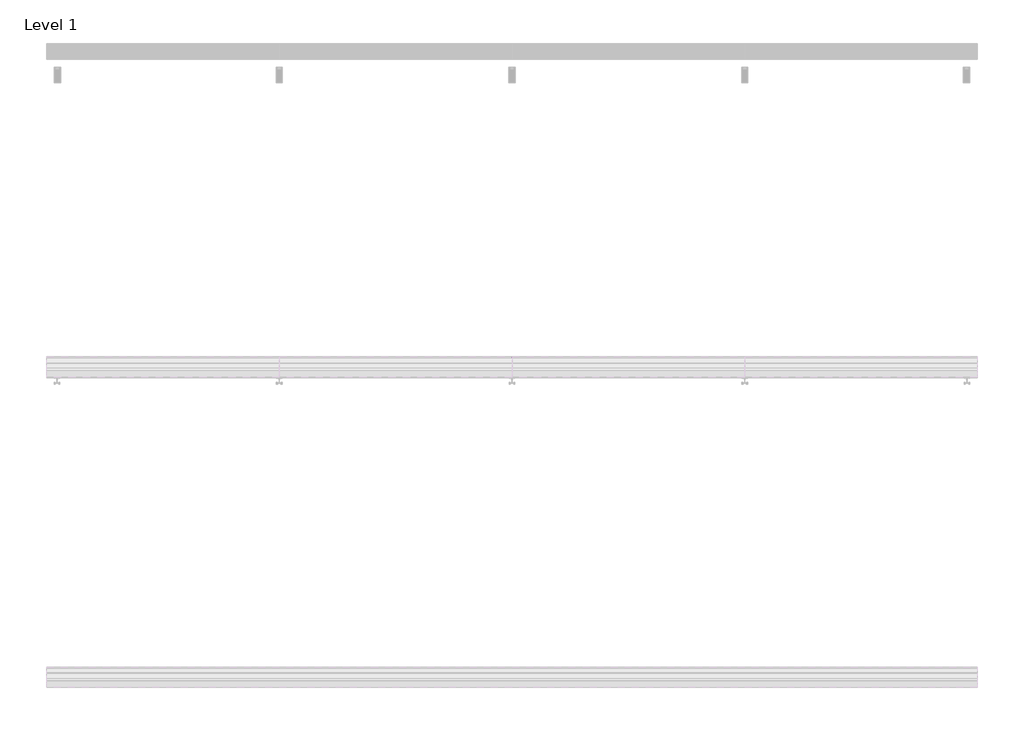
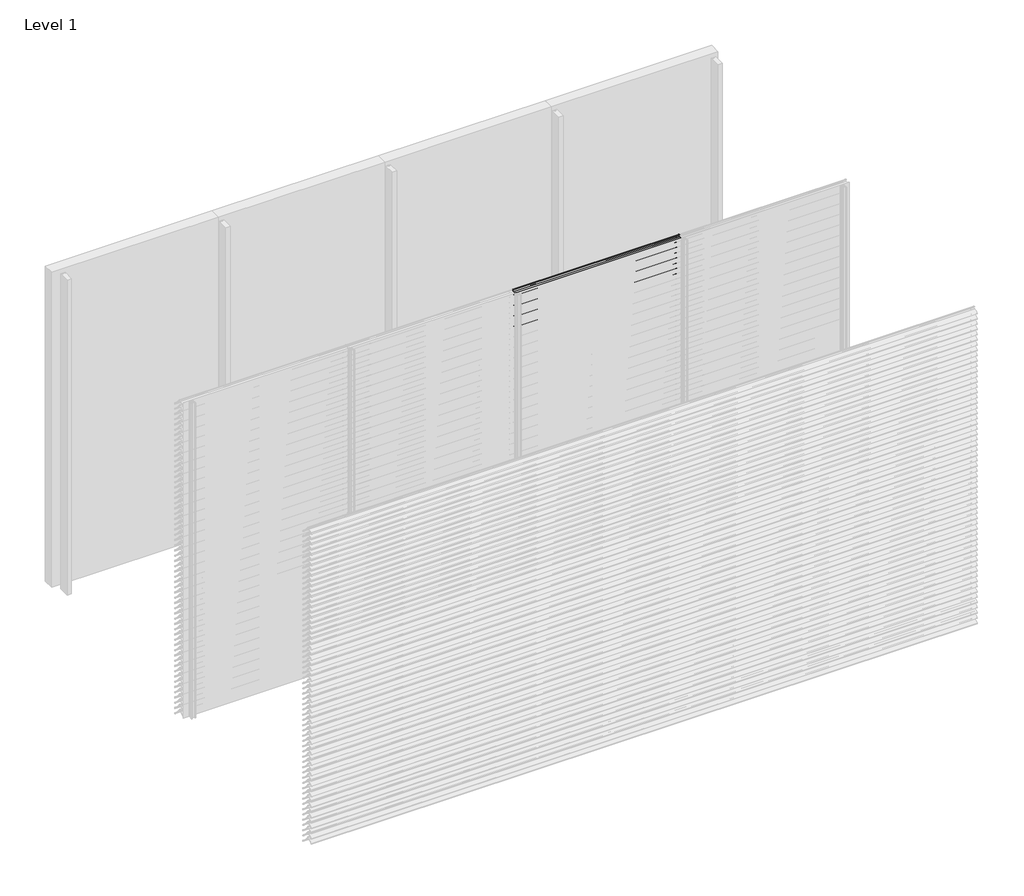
# One storey, part 47 of 173: 18 proxies.
"""IFC4 building model written with IfcOpenShell, lengths in millimetres."""

from ifc_helpers import new_model, si_unit, point, frame, frame_2d, origin, place, context, project, spatial, polyline, circle_curve, trimmed, segment, composite_curve, outline, extrude, element, save

model = new_model("IFC4")

# Units and contexts
model_context = context("Model", 3, world=origin())
ifc_project = project(units=[si_unit("LENGTHUNIT", "METRE", prefix="MILLI")], contexts=[model_context])

# Site, building, storey
site = spatial("IfcSite", under=ifc_project)
building = spatial("IfcBuilding", under=site)
storey = spatial("IfcBuildingStorey", under=building, Name="Level 1", Elevation=0.0)

# Proxies
placement = place(None, origin())
element("IfcBuildingElementProxy", 1, Name="Wall Sweeps", at=placement, inside=storey, context=model_context, shape_type="SweptSolid", body=[
    extrude(outline(composite_curve([segment(polyline([(-41998.0, 459.1474905), (-41998.0, 461.6227417)]), True, "CONTINUOUS"), segment(trimmed(circle_curve(frame_2d((-41951.2682172, 416.2200208)), 65.1557103), [point((-41998.0, 461.6227417))], [point((-41954.4014323, 481.3003524))], False, "CARTESIAN"), True, "CONTINUOUS"), segment(polyline([(-41954.4014323, 481.3003524), (-41934.8315836, 481.3003524)]), True, "CONTINUOUS"), segment(trimmed(circle_curve(frame_2d((-41732.7329489, 628.5533172)), 250.0545817), [point((-41934.8315836, 481.3003524))], [point((-41941.4452143, 490.8344583))], False, "CARTESIAN"), True, "CONTINUOUS"), segment(trimmed(circle_curve(frame_2d((-41953.2981792, 485.1737835)), 13.1352966), [point((-41941.4452143, 490.8344583))], [point((-41953.8171475, 498.298824))], True, "CARTESIAN"), True, "CONTINUOUS"), segment(polyline([(-41953.8171475, 498.298824), (-41953.8171475, 500.0)]), True, "CONTINUOUS"), segment(trimmed(circle_curve(frame_2d((-41953.2981792, 485.1737835)), 14.8352966), [point((-41953.8171475, 500.0))], [point((-41939.9637661, 491.6760487))], False, "CARTESIAN"), True, "CONTINUOUS"), segment(trimmed(circle_curve(frame_2d((-41732.7329489, 628.5533172)), 248.3545817), [point((-41939.9637661, 491.6760487))], [point((-41873.8787895, 424.2059416))], True, "CARTESIAN"), True, "CONTINUOUS"), segment(trimmed(circle_curve(frame_2d((-41883.8147537, 411.6649442)), 16.0), [point((-41873.8787895, 424.2059416))], [point((-41867.8648347, 410.4))], False, "CARTESIAN"), True, "CONTINUOUS"), segment(polyline([(-41867.8648347, 410.4), (-41869.6712069, 410.4)]), True, "CONTINUOUS"), segment(trimmed(circle_curve(frame_2d((-41883.8147537, 411.6649442)), 14.2), [point((-41869.6712069, 410.4))], [point((-41874.9518628, 422.7594998))], True, "CARTESIAN"), True, "CONTINUOUS"), segment(trimmed(circle_curve(frame_2d((-41732.7329489, 628.5533172)), 250.1545817), [point((-41874.9518628, 422.7594998))], [point((-41933.7064024, 479.6003524))], False, "CARTESIAN"), True, "CONTINUOUS"), segment(polyline([(-41933.7064024, 479.6003524), (-41954.3602632, 479.6003524)]), True, "CONTINUOUS"), segment(trimmed(circle_curve(frame_2d((-41951.2682172, 416.2200208)), 63.4557103), [point((-41954.3602632, 479.6003524))], [point((-41998.0, 459.1474905))], True, "CARTESIAN"), True, "CONTINUOUS")], self_intersect=False)), frame((1500.0, 0.0, 0.0), z_axis=(1.0, 0.0, 0.0), x_axis=(0.0, 1.0, 0.0)), (0.0, 0.0, 1.0), 1500.0),
])
element("IfcBuildingElementProxy", 2, Name="Wall Sweeps", at=placement, inside=storey, context=model_context, shape_type="SweptSolid", body=[
    extrude(outline(composite_curve([segment(polyline([(-41998.0, 409.1474905), (-41998.0, 411.6227417)]), True, "CONTINUOUS"), segment(trimmed(circle_curve(frame_2d((-41951.2682172, 366.2200208)), 65.1557103), [point((-41998.0, 411.6227417))], [point((-41954.4014323, 431.3003524))], False, "CARTESIAN"), True, "CONTINUOUS"), segment(polyline([(-41954.4014323, 431.3003524), (-41934.8315836, 431.3003524)]), True, "CONTINUOUS"), segment(trimmed(circle_curve(frame_2d((-41732.7329489, 578.5533172)), 250.0545817), [point((-41934.8315836, 431.3003524))], [point((-41941.4452143, 440.8344583))], False, "CARTESIAN"), True, "CONTINUOUS"), segment(trimmed(circle_curve(frame_2d((-41953.2981792, 435.1737835)), 13.1352966), [point((-41941.4452143, 440.8344583))], [point((-41953.8171475, 448.298824))], True, "CARTESIAN"), True, "CONTINUOUS"), segment(polyline([(-41953.8171475, 448.298824), (-41953.8171475, 450.0)]), True, "CONTINUOUS"), segment(trimmed(circle_curve(frame_2d((-41953.2981792, 435.1737835)), 14.8352966), [point((-41953.8171475, 450.0))], [point((-41939.9637661, 441.6760487))], False, "CARTESIAN"), True, "CONTINUOUS"), segment(trimmed(circle_curve(frame_2d((-41732.7329489, 578.5533172)), 248.3545817), [point((-41939.9637661, 441.6760487))], [point((-41873.8787895, 374.2059416))], True, "CARTESIAN"), True, "CONTINUOUS"), segment(trimmed(circle_curve(frame_2d((-41883.8147537, 361.6649442)), 16.0), [point((-41873.8787895, 374.2059416))], [point((-41867.8648347, 360.4))], False, "CARTESIAN"), True, "CONTINUOUS"), segment(polyline([(-41867.8648347, 360.4), (-41869.6712069, 360.4)]), True, "CONTINUOUS"), segment(trimmed(circle_curve(frame_2d((-41883.8147537, 361.6649442)), 14.2), [point((-41869.6712069, 360.4))], [point((-41874.9518628, 372.7594998))], True, "CARTESIAN"), True, "CONTINUOUS"), segment(trimmed(circle_curve(frame_2d((-41732.7329489, 578.5533172)), 250.1545817), [point((-41874.9518628, 372.7594998))], [point((-41933.7064024, 429.6003524))], False, "CARTESIAN"), True, "CONTINUOUS"), segment(polyline([(-41933.7064024, 429.6003524), (-41954.3602632, 429.6003524)]), True, "CONTINUOUS"), segment(trimmed(circle_curve(frame_2d((-41951.2682172, 366.2200208)), 63.4557103), [point((-41954.3602632, 429.6003524))], [point((-41998.0, 409.1474905))], True, "CARTESIAN"), True, "CONTINUOUS")], self_intersect=False)), frame((1500.0, 0.0, 0.0), z_axis=(1.0, 0.0, 0.0), x_axis=(0.0, 1.0, 0.0)), (0.0, 0.0, 1.0), 1500.0),
])
element("IfcBuildingElementProxy", 3, Name="Wall Sweeps", at=placement, inside=storey, context=model_context, shape_type="SweptSolid", body=[
    extrude(outline(composite_curve([segment(polyline([(-41998.0, 359.1474905), (-41998.0, 361.6227417)]), True, "CONTINUOUS"), segment(trimmed(circle_curve(frame_2d((-41951.2682172, 316.2200208)), 65.1557103), [point((-41998.0, 361.6227417))], [point((-41954.4014323, 381.3003524))], False, "CARTESIAN"), True, "CONTINUOUS"), segment(polyline([(-41954.4014323, 381.3003524), (-41934.8315836, 381.3003524)]), True, "CONTINUOUS"), segment(trimmed(circle_curve(frame_2d((-41732.7329489, 528.5533172)), 250.0545817), [point((-41934.8315836, 381.3003524))], [point((-41941.4452143, 390.8344583))], False, "CARTESIAN"), True, "CONTINUOUS"), segment(trimmed(circle_curve(frame_2d((-41953.2981792, 385.1737835)), 13.1352966), [point((-41941.4452143, 390.8344583))], [point((-41953.8171475, 398.298824))], True, "CARTESIAN"), True, "CONTINUOUS"), segment(polyline([(-41953.8171475, 398.298824), (-41953.8171475, 400.0)]), True, "CONTINUOUS"), segment(trimmed(circle_curve(frame_2d((-41953.2981792, 385.1737835)), 14.8352966), [point((-41953.8171475, 400.0))], [point((-41939.9637661, 391.6760487))], False, "CARTESIAN"), True, "CONTINUOUS"), segment(trimmed(circle_curve(frame_2d((-41732.7329489, 528.5533172)), 248.3545817), [point((-41939.9637661, 391.6760487))], [point((-41873.8787895, 324.2059416))], True, "CARTESIAN"), True, "CONTINUOUS"), segment(trimmed(circle_curve(frame_2d((-41883.8147537, 311.6649442)), 16.0), [point((-41873.8787895, 324.2059416))], [point((-41867.8648347, 310.4))], False, "CARTESIAN"), True, "CONTINUOUS"), segment(polyline([(-41867.8648347, 310.4), (-41869.6712069, 310.4)]), True, "CONTINUOUS"), segment(trimmed(circle_curve(frame_2d((-41883.8147537, 311.6649442)), 14.2), [point((-41869.6712069, 310.4))], [point((-41874.9518628, 322.7594998))], True, "CARTESIAN"), True, "CONTINUOUS"), segment(trimmed(circle_curve(frame_2d((-41732.7329489, 528.5533172)), 250.1545817), [point((-41874.9518628, 322.7594998))], [point((-41933.7064024, 379.6003524))], False, "CARTESIAN"), True, "CONTINUOUS"), segment(polyline([(-41933.7064024, 379.6003524), (-41954.3602632, 379.6003524)]), True, "CONTINUOUS"), segment(trimmed(circle_curve(frame_2d((-41951.2682172, 316.2200208)), 63.4557103), [point((-41954.3602632, 379.6003524))], [point((-41998.0, 359.1474905))], True, "CARTESIAN"), True, "CONTINUOUS")], self_intersect=False)), frame((1500.0, 0.0, 0.0), z_axis=(1.0, 0.0, 0.0), x_axis=(0.0, 1.0, 0.0)), (0.0, 0.0, 1.0), 1500.0),
])
element("IfcBuildingElementProxy", 4, Name="Wall Sweeps", at=placement, inside=storey, context=model_context, shape_type="SweptSolid", body=[
    extrude(outline(composite_curve([segment(polyline([(-41998.0, 309.1474905), (-41998.0, 311.6227417)]), True, "CONTINUOUS"), segment(trimmed(circle_curve(frame_2d((-41951.2682172, 266.2200208)), 65.1557103), [point((-41998.0, 311.6227417))], [point((-41954.4014323, 331.3003524))], False, "CARTESIAN"), True, "CONTINUOUS"), segment(polyline([(-41954.4014323, 331.3003524), (-41934.8315836, 331.3003524)]), True, "CONTINUOUS"), segment(trimmed(circle_curve(frame_2d((-41732.7329489, 478.5533172)), 250.0545817), [point((-41934.8315836, 331.3003524))], [point((-41941.4452143, 340.8344583))], False, "CARTESIAN"), True, "CONTINUOUS"), segment(trimmed(circle_curve(frame_2d((-41953.2981792, 335.1737835)), 13.1352966), [point((-41941.4452143, 340.8344583))], [point((-41953.8171475, 348.298824))], True, "CARTESIAN"), True, "CONTINUOUS"), segment(polyline([(-41953.8171475, 348.298824), (-41953.8171475, 350.0)]), True, "CONTINUOUS"), segment(trimmed(circle_curve(frame_2d((-41953.2981792, 335.1737835)), 14.8352966), [point((-41953.8171475, 350.0))], [point((-41939.9637661, 341.6760487))], False, "CARTESIAN"), True, "CONTINUOUS"), segment(trimmed(circle_curve(frame_2d((-41732.7329489, 478.5533172)), 248.3545817), [point((-41939.9637661, 341.6760487))], [point((-41873.8787895, 274.2059416))], True, "CARTESIAN"), True, "CONTINUOUS"), segment(trimmed(circle_curve(frame_2d((-41883.8147537, 261.6649442)), 16.0), [point((-41873.8787895, 274.2059416))], [point((-41867.8648347, 260.4))], False, "CARTESIAN"), True, "CONTINUOUS"), segment(polyline([(-41867.8648347, 260.4), (-41869.6712069, 260.4)]), True, "CONTINUOUS"), segment(trimmed(circle_curve(frame_2d((-41883.8147537, 261.6649442)), 14.2), [point((-41869.6712069, 260.4))], [point((-41874.9518628, 272.7594998))], True, "CARTESIAN"), True, "CONTINUOUS"), segment(trimmed(circle_curve(frame_2d((-41732.7329489, 478.5533172)), 250.1545817), [point((-41874.9518628, 272.7594998))], [point((-41933.7064024, 329.6003524))], False, "CARTESIAN"), True, "CONTINUOUS"), segment(polyline([(-41933.7064024, 329.6003524), (-41954.3602632, 329.6003524)]), True, "CONTINUOUS"), segment(trimmed(circle_curve(frame_2d((-41951.2682172, 266.2200208)), 63.4557103), [point((-41954.3602632, 329.6003524))], [point((-41998.0, 309.1474905))], True, "CARTESIAN"), True, "CONTINUOUS")], self_intersect=False)), frame((1500.0, 0.0, 0.0), z_axis=(1.0, 0.0, 0.0), x_axis=(0.0, 1.0, 0.0)), (0.0, 0.0, 1.0), 1500.0),
])
element("IfcBuildingElementProxy", 5, Name="Wall Sweeps", at=placement, inside=storey, context=model_context, shape_type="SweptSolid", body=[
    extrude(outline(composite_curve([segment(polyline([(-41998.0, 259.1474905), (-41998.0, 261.6227417)]), True, "CONTINUOUS"), segment(trimmed(circle_curve(frame_2d((-41951.2682172, 216.2200208)), 65.1557103), [point((-41998.0, 261.6227417))], [point((-41954.4014323, 281.3003524))], False, "CARTESIAN"), True, "CONTINUOUS"), segment(polyline([(-41954.4014323, 281.3003524), (-41934.8315836, 281.3003524)]), True, "CONTINUOUS"), segment(trimmed(circle_curve(frame_2d((-41732.7329489, 428.5533172)), 250.0545817), [point((-41934.8315836, 281.3003524))], [point((-41941.4452143, 290.8344583))], False, "CARTESIAN"), True, "CONTINUOUS"), segment(trimmed(circle_curve(frame_2d((-41953.2981792, 285.1737835)), 13.1352966), [point((-41941.4452143, 290.8344583))], [point((-41953.8171475, 298.298824))], True, "CARTESIAN"), True, "CONTINUOUS"), segment(polyline([(-41953.8171475, 298.298824), (-41953.8171475, 300.0)]), True, "CONTINUOUS"), segment(trimmed(circle_curve(frame_2d((-41953.2981792, 285.1737835)), 14.8352966), [point((-41953.8171475, 300.0))], [point((-41939.9637661, 291.6760487))], False, "CARTESIAN"), True, "CONTINUOUS"), segment(trimmed(circle_curve(frame_2d((-41732.7329489, 428.5533172)), 248.3545817), [point((-41939.9637661, 291.6760487))], [point((-41873.8787895, 224.2059416))], True, "CARTESIAN"), True, "CONTINUOUS"), segment(trimmed(circle_curve(frame_2d((-41883.8147537, 211.6649442)), 16.0), [point((-41873.8787895, 224.2059416))], [point((-41867.8648347, 210.4))], False, "CARTESIAN"), True, "CONTINUOUS"), segment(polyline([(-41867.8648347, 210.4), (-41869.6712069, 210.4)]), True, "CONTINUOUS"), segment(trimmed(circle_curve(frame_2d((-41883.8147537, 211.6649442)), 14.2), [point((-41869.6712069, 210.4))], [point((-41874.9518628, 222.7594998))], True, "CARTESIAN"), True, "CONTINUOUS"), segment(trimmed(circle_curve(frame_2d((-41732.7329489, 428.5533172)), 250.1545817), [point((-41874.9518628, 222.7594998))], [point((-41933.7064024, 279.6003524))], False, "CARTESIAN"), True, "CONTINUOUS"), segment(polyline([(-41933.7064024, 279.6003524), (-41954.3602632, 279.6003524)]), True, "CONTINUOUS"), segment(trimmed(circle_curve(frame_2d((-41951.2682172, 216.2200208)), 63.4557103), [point((-41954.3602632, 279.6003524))], [point((-41998.0, 259.1474905))], True, "CARTESIAN"), True, "CONTINUOUS")], self_intersect=False)), frame((1500.0, 0.0, 0.0), z_axis=(1.0, 0.0, 0.0), x_axis=(0.0, 1.0, 0.0)), (0.0, 0.0, 1.0), 1500.0),
])
element("IfcBuildingElementProxy", 6, Name="Wall Sweeps", at=placement, inside=storey, context=model_context, shape_type="SweptSolid", body=[
    extrude(outline(composite_curve([segment(polyline([(-41998.0, 209.1474905), (-41998.0, 211.6227417)]), True, "CONTINUOUS"), segment(trimmed(circle_curve(frame_2d((-41951.2682172, 166.2200208)), 65.1557103), [point((-41998.0, 211.6227417))], [point((-41954.4014323, 231.3003524))], False, "CARTESIAN"), True, "CONTINUOUS"), segment(polyline([(-41954.4014323, 231.3003524), (-41934.8315836, 231.3003524)]), True, "CONTINUOUS"), segment(trimmed(circle_curve(frame_2d((-41732.7329489, 378.5533172)), 250.0545817), [point((-41934.8315836, 231.3003524))], [point((-41941.4452143, 240.8344583))], False, "CARTESIAN"), True, "CONTINUOUS"), segment(trimmed(circle_curve(frame_2d((-41953.2981792, 235.1737835)), 13.1352966), [point((-41941.4452143, 240.8344583))], [point((-41953.8171475, 248.298824))], True, "CARTESIAN"), True, "CONTINUOUS"), segment(polyline([(-41953.8171475, 248.298824), (-41953.8171475, 250.0)]), True, "CONTINUOUS"), segment(trimmed(circle_curve(frame_2d((-41953.2981792, 235.1737835)), 14.8352966), [point((-41953.8171475, 250.0))], [point((-41939.9637661, 241.6760487))], False, "CARTESIAN"), True, "CONTINUOUS"), segment(trimmed(circle_curve(frame_2d((-41732.7329489, 378.5533172)), 248.3545817), [point((-41939.9637661, 241.6760487))], [point((-41873.8787895, 174.2059416))], True, "CARTESIAN"), True, "CONTINUOUS"), segment(trimmed(circle_curve(frame_2d((-41883.8147537, 161.6649442)), 16.0), [point((-41873.8787895, 174.2059416))], [point((-41867.8648347, 160.4))], False, "CARTESIAN"), True, "CONTINUOUS"), segment(polyline([(-41867.8648347, 160.4), (-41869.6712069, 160.4)]), True, "CONTINUOUS"), segment(trimmed(circle_curve(frame_2d((-41883.8147537, 161.6649442)), 14.2), [point((-41869.6712069, 160.4))], [point((-41874.9518628, 172.7594998))], True, "CARTESIAN"), True, "CONTINUOUS"), segment(trimmed(circle_curve(frame_2d((-41732.7329489, 378.5533172)), 250.1545817), [point((-41874.9518628, 172.7594998))], [point((-41933.7064024, 229.6003524))], False, "CARTESIAN"), True, "CONTINUOUS"), segment(polyline([(-41933.7064024, 229.6003524), (-41954.3602632, 229.6003524)]), True, "CONTINUOUS"), segment(trimmed(circle_curve(frame_2d((-41951.2682172, 166.2200208)), 63.4557103), [point((-41954.3602632, 229.6003524))], [point((-41998.0, 209.1474905))], True, "CARTESIAN"), True, "CONTINUOUS")], self_intersect=False)), frame((1500.0, 0.0, 0.0), z_axis=(1.0, 0.0, 0.0), x_axis=(0.0, 1.0, 0.0)), (0.0, 0.0, 1.0), 1500.0),
])
element("IfcBuildingElementProxy", 7, Name="Wall Sweeps", at=placement, inside=storey, context=model_context, shape_type="SweptSolid", body=[
    extrude(outline(composite_curve([segment(polyline([(-41998.0, 159.1474905), (-41998.0, 161.6227417)]), True, "CONTINUOUS"), segment(trimmed(circle_curve(frame_2d((-41951.2682172, 116.2200208)), 65.1557103), [point((-41998.0, 161.6227417))], [point((-41954.4014323, 181.3003524))], False, "CARTESIAN"), True, "CONTINUOUS"), segment(polyline([(-41954.4014323, 181.3003524), (-41934.8315836, 181.3003524)]), True, "CONTINUOUS"), segment(trimmed(circle_curve(frame_2d((-41732.7329489, 328.5533172)), 250.0545817), [point((-41934.8315836, 181.3003524))], [point((-41941.4452143, 190.8344583))], False, "CARTESIAN"), True, "CONTINUOUS"), segment(trimmed(circle_curve(frame_2d((-41953.2981792, 185.1737835)), 13.1352966), [point((-41941.4452143, 190.8344583))], [point((-41953.8171475, 198.298824))], True, "CARTESIAN"), True, "CONTINUOUS"), segment(polyline([(-41953.8171475, 198.298824), (-41953.8171475, 200.0)]), True, "CONTINUOUS"), segment(trimmed(circle_curve(frame_2d((-41953.2981792, 185.1737835)), 14.8352966), [point((-41953.8171475, 200.0))], [point((-41939.9637661, 191.6760487))], False, "CARTESIAN"), True, "CONTINUOUS"), segment(trimmed(circle_curve(frame_2d((-41732.7329489, 328.5533172)), 248.3545817), [point((-41939.9637661, 191.6760487))], [point((-41873.8787895, 124.2059416))], True, "CARTESIAN"), True, "CONTINUOUS"), segment(trimmed(circle_curve(frame_2d((-41883.8147537, 111.6649442)), 16.0), [point((-41873.8787895, 124.2059416))], [point((-41867.8648347, 110.4))], False, "CARTESIAN"), True, "CONTINUOUS"), segment(polyline([(-41867.8648347, 110.4), (-41869.6712069, 110.4)]), True, "CONTINUOUS"), segment(trimmed(circle_curve(frame_2d((-41883.8147537, 111.6649442)), 14.2), [point((-41869.6712069, 110.4))], [point((-41874.9518628, 122.7594998))], True, "CARTESIAN"), True, "CONTINUOUS"), segment(trimmed(circle_curve(frame_2d((-41732.7329489, 328.5533172)), 250.1545817), [point((-41874.9518628, 122.7594998))], [point((-41933.7064024, 179.6003524))], False, "CARTESIAN"), True, "CONTINUOUS"), segment(polyline([(-41933.7064024, 179.6003524), (-41954.3602632, 179.6003524)]), True, "CONTINUOUS"), segment(trimmed(circle_curve(frame_2d((-41951.2682172, 116.2200208)), 63.4557103), [point((-41954.3602632, 179.6003524))], [point((-41998.0, 159.1474905))], True, "CARTESIAN"), True, "CONTINUOUS")], self_intersect=False)), frame((1500.0, 0.0, 0.0), z_axis=(1.0, 0.0, 0.0), x_axis=(0.0, 1.0, 0.0)), (0.0, 0.0, 1.0), 1500.0),
])
element("IfcBuildingElementProxy", 8, Name="Wall Sweeps", at=placement, inside=storey, context=model_context, shape_type="SweptSolid", body=[
    extrude(outline(composite_curve([segment(polyline([(-41998.0, 109.1474905), (-41998.0, 111.6227417)]), True, "CONTINUOUS"), segment(trimmed(circle_curve(frame_2d((-41951.2682172, 66.2200208)), 65.1557103), [point((-41998.0, 111.6227417))], [point((-41954.4014323, 131.3003524))], False, "CARTESIAN"), True, "CONTINUOUS"), segment(polyline([(-41954.4014323, 131.3003524), (-41934.8315836, 131.3003524)]), True, "CONTINUOUS"), segment(trimmed(circle_curve(frame_2d((-41732.7329489, 278.5533172)), 250.0545817), [point((-41934.8315836, 131.3003524))], [point((-41941.4452143, 140.8344583))], False, "CARTESIAN"), True, "CONTINUOUS"), segment(trimmed(circle_curve(frame_2d((-41953.2981792, 135.1737835)), 13.1352966), [point((-41941.4452143, 140.8344583))], [point((-41953.8171475, 148.298824))], True, "CARTESIAN"), True, "CONTINUOUS"), segment(polyline([(-41953.8171475, 148.298824), (-41953.8171475, 150.0)]), True, "CONTINUOUS"), segment(trimmed(circle_curve(frame_2d((-41953.2981792, 135.1737835)), 14.8352966), [point((-41953.8171475, 150.0))], [point((-41939.9637661, 141.6760487))], False, "CARTESIAN"), True, "CONTINUOUS"), segment(trimmed(circle_curve(frame_2d((-41732.7329489, 278.5533172)), 248.3545817), [point((-41939.9637661, 141.6760487))], [point((-41873.8787895, 74.2059416))], True, "CARTESIAN"), True, "CONTINUOUS"), segment(trimmed(circle_curve(frame_2d((-41883.8147537, 61.6649442)), 16.0), [point((-41873.8787895, 74.2059416))], [point((-41867.8648347, 60.4))], False, "CARTESIAN"), True, "CONTINUOUS"), segment(polyline([(-41867.8648347, 60.4), (-41869.6712069, 60.4)]), True, "CONTINUOUS"), segment(trimmed(circle_curve(frame_2d((-41883.8147537, 61.6649442)), 14.2), [point((-41869.6712069, 60.4))], [point((-41874.9518628, 72.7594998))], True, "CARTESIAN"), True, "CONTINUOUS"), segment(trimmed(circle_curve(frame_2d((-41732.7329489, 278.5533172)), 250.1545817), [point((-41874.9518628, 72.7594998))], [point((-41933.7064024, 129.6003524))], False, "CARTESIAN"), True, "CONTINUOUS"), segment(polyline([(-41933.7064024, 129.6003524), (-41954.3602632, 129.6003524)]), True, "CONTINUOUS"), segment(trimmed(circle_curve(frame_2d((-41951.2682172, 66.2200208)), 63.4557103), [point((-41954.3602632, 129.6003524))], [point((-41998.0, 109.1474905))], True, "CARTESIAN"), True, "CONTINUOUS")], self_intersect=False)), frame((1500.0, 0.0, 0.0), z_axis=(1.0, 0.0, 0.0), x_axis=(0.0, 1.0, 0.0)), (0.0, 0.0, 1.0), 1500.0),
])
element("IfcBuildingElementProxy", 9, Name="Wall Sweeps", at=placement, inside=storey, context=model_context, shape_type="SweptSolid", body=[
    extrude(outline(composite_curve([segment(polyline([(-41998.0, 59.1474905), (-41998.0, 61.6227417)]), True, "CONTINUOUS"), segment(trimmed(circle_curve(frame_2d((-41951.2682172, 16.2200208)), 65.1557103), [point((-41998.0, 61.6227417))], [point((-41954.4014323, 81.3003524))], False, "CARTESIAN"), True, "CONTINUOUS"), segment(polyline([(-41954.4014323, 81.3003524), (-41934.8315836, 81.3003524)]), True, "CONTINUOUS"), segment(trimmed(circle_curve(frame_2d((-41732.7329489, 228.5533172)), 250.0545817), [point((-41934.8315836, 81.3003524))], [point((-41941.4452143, 90.8344583))], False, "CARTESIAN"), True, "CONTINUOUS"), segment(trimmed(circle_curve(frame_2d((-41953.2981792, 85.1737835)), 13.1352966), [point((-41941.4452143, 90.8344583))], [point((-41953.8171475, 98.298824))], True, "CARTESIAN"), True, "CONTINUOUS"), segment(polyline([(-41953.8171475, 98.298824), (-41953.8171475, 100.0)]), True, "CONTINUOUS"), segment(trimmed(circle_curve(frame_2d((-41953.2981792, 85.1737835)), 14.8352966), [point((-41953.8171475, 100.0))], [point((-41939.9637661, 91.6760487))], False, "CARTESIAN"), True, "CONTINUOUS"), segment(trimmed(circle_curve(frame_2d((-41732.7329489, 228.5533172)), 248.3545817), [point((-41939.9637661, 91.6760487))], [point((-41873.8787895, 24.2059416))], True, "CARTESIAN"), True, "CONTINUOUS"), segment(trimmed(circle_curve(frame_2d((-41883.8147537, 11.6649442)), 16.0), [point((-41873.8787895, 24.2059416))], [point((-41867.8648347, 10.4))], False, "CARTESIAN"), True, "CONTINUOUS"), segment(polyline([(-41867.8648347, 10.4), (-41869.6712069, 10.4)]), True, "CONTINUOUS"), segment(trimmed(circle_curve(frame_2d((-41883.8147537, 11.6649442)), 14.2), [point((-41869.6712069, 10.4))], [point((-41874.9518628, 22.7594998))], True, "CARTESIAN"), True, "CONTINUOUS"), segment(trimmed(circle_curve(frame_2d((-41732.7329489, 228.5533172)), 250.1545817), [point((-41874.9518628, 22.7594998))], [point((-41933.7064024, 79.6003524))], False, "CARTESIAN"), True, "CONTINUOUS"), segment(polyline([(-41933.7064024, 79.6003524), (-41954.3602632, 79.6003524)]), True, "CONTINUOUS"), segment(trimmed(circle_curve(frame_2d((-41951.2682172, 16.2200208)), 63.4557103), [point((-41954.3602632, 79.6003524))], [point((-41998.0, 59.1474905))], True, "CARTESIAN"), True, "CONTINUOUS")], self_intersect=False)), frame((1500.0, 0.0, 0.0), z_axis=(1.0, 0.0, 0.0), x_axis=(0.0, 1.0, 0.0)), (0.0, 0.0, 1.0), 1500.0),
])
element("IfcBuildingElementProxy", 10, Name="Wall Sweeps", at=placement, inside=storey, context=model_context, shape_type="SweptSolid", body=[
    extrude(outline(composite_curve([segment(polyline([(-41998.0, 9.1474905), (-41998.0, 11.6227417)]), True, "CONTINUOUS"), segment(trimmed(circle_curve(frame_2d((-41951.2682172, -33.7799792)), 65.1557103), [point((-41998.0, 11.6227417))], [point((-41954.4014323, 31.3003524))], False, "CARTESIAN"), True, "CONTINUOUS"), segment(polyline([(-41954.4014323, 31.3003524), (-41934.8315836, 31.3003524)]), True, "CONTINUOUS"), segment(trimmed(circle_curve(frame_2d((-41732.7329489, 178.5533172)), 250.0545817), [point((-41934.8315836, 31.3003524))], [point((-41941.4452143, 40.8344583))], False, "CARTESIAN"), True, "CONTINUOUS"), segment(trimmed(circle_curve(frame_2d((-41953.2981792, 35.1737835)), 13.1352966), [point((-41941.4452143, 40.8344583))], [point((-41953.8171475, 48.298824))], True, "CARTESIAN"), True, "CONTINUOUS"), segment(polyline([(-41953.8171475, 48.298824), (-41953.8171475, 50.0)]), True, "CONTINUOUS"), segment(trimmed(circle_curve(frame_2d((-41953.2981792, 35.1737835)), 14.8352966), [point((-41953.8171475, 50.0))], [point((-41939.9637661, 41.6760487))], False, "CARTESIAN"), True, "CONTINUOUS"), segment(trimmed(circle_curve(frame_2d((-41732.7329489, 178.5533172)), 248.3545817), [point((-41939.9637661, 41.6760487))], [point((-41873.8787895, -25.7940584))], True, "CARTESIAN"), True, "CONTINUOUS"), segment(trimmed(circle_curve(frame_2d((-41883.8147537, -38.3350558)), 16.0), [point((-41873.8787895, -25.7940584))], [point((-41867.8648347, -39.6))], False, "CARTESIAN"), True, "CONTINUOUS"), segment(polyline([(-41867.8648347, -39.6), (-41869.6712069, -39.6)]), True, "CONTINUOUS"), segment(trimmed(circle_curve(frame_2d((-41883.8147537, -38.3350558)), 14.2), [point((-41869.6712069, -39.6))], [point((-41874.9518628, -27.2405002))], True, "CARTESIAN"), True, "CONTINUOUS"), segment(trimmed(circle_curve(frame_2d((-41732.7329489, 178.5533172)), 250.1545817), [point((-41874.9518628, -27.2405002))], [point((-41933.7064024, 29.6003524))], False, "CARTESIAN"), True, "CONTINUOUS"), segment(polyline([(-41933.7064024, 29.6003524), (-41954.3602632, 29.6003524)]), True, "CONTINUOUS"), segment(trimmed(circle_curve(frame_2d((-41951.2682172, -33.7799792)), 63.4557103), [point((-41954.3602632, 29.6003524))], [point((-41998.0, 9.1474905))], True, "CARTESIAN"), True, "CONTINUOUS")], self_intersect=False)), frame((1500.0, 0.0, 0.0), z_axis=(1.0, 0.0, 0.0), x_axis=(0.0, 1.0, 0.0)), (0.0, 0.0, 1.0), 1500.0),
])
element("IfcBuildingElementProxy", 11, Name="Wall Sweeps", at=placement, inside=storey, context=model_context, shape_type="SweptSolid", body=[
    extrude(outline(composite_curve([segment(polyline([(-41998.0, 2959.1474905), (-41998.0, 2961.6227417)]), True, "CONTINUOUS"), segment(trimmed(circle_curve(frame_2d((-41951.2682172, 2916.2200208)), 65.1557103), [point((-41998.0, 2961.6227417))], [point((-41954.4014323, 2981.3003524))], False, "CARTESIAN"), True, "CONTINUOUS"), segment(polyline([(-41954.4014323, 2981.3003524), (-41934.8315836, 2981.3003524)]), True, "CONTINUOUS"), segment(trimmed(circle_curve(frame_2d((-41732.7329489, 3128.5533172)), 250.0545817), [point((-41934.8315836, 2981.3003524))], [point((-41941.4452143, 2990.8344583))], False, "CARTESIAN"), True, "CONTINUOUS"), segment(trimmed(circle_curve(frame_2d((-41953.2981792, 2985.1737835)), 13.1352966), [point((-41941.4452143, 2990.8344583))], [point((-41953.8171475, 2998.298824))], True, "CARTESIAN"), True, "CONTINUOUS"), segment(polyline([(-41953.8171475, 2998.298824), (-41953.8171475, 3000.0)]), True, "CONTINUOUS"), segment(trimmed(circle_curve(frame_2d((-41953.2981792, 2985.1737835)), 14.8352966), [point((-41953.8171475, 3000.0))], [point((-41939.9637661, 2991.6760487))], False, "CARTESIAN"), True, "CONTINUOUS"), segment(trimmed(circle_curve(frame_2d((-41732.7329489, 3128.5533172)), 248.3545817), [point((-41939.9637661, 2991.6760487))], [point((-41873.8787895, 2924.2059416))], True, "CARTESIAN"), True, "CONTINUOUS"), segment(trimmed(circle_curve(frame_2d((-41883.8147537, 2911.6649442)), 16.0), [point((-41873.8787895, 2924.2059416))], [point((-41867.8648347, 2910.4))], False, "CARTESIAN"), True, "CONTINUOUS"), segment(polyline([(-41867.8648347, 2910.4), (-41869.6712069, 2910.4)]), True, "CONTINUOUS"), segment(trimmed(circle_curve(frame_2d((-41883.8147537, 2911.6649442)), 14.2), [point((-41869.6712069, 2910.4))], [point((-41874.9518628, 2922.7594998))], True, "CARTESIAN"), True, "CONTINUOUS"), segment(trimmed(circle_curve(frame_2d((-41732.7329489, 3128.5533172)), 250.1545817), [point((-41874.9518628, 2922.7594998))], [point((-41933.7064024, 2979.6003524))], False, "CARTESIAN"), True, "CONTINUOUS"), segment(polyline([(-41933.7064024, 2979.6003524), (-41954.3602632, 2979.6003524)]), True, "CONTINUOUS"), segment(trimmed(circle_curve(frame_2d((-41951.2682172, 2916.2200208)), 63.4557103), [point((-41954.3602632, 2979.6003524))], [point((-41998.0, 2959.1474905))], True, "CARTESIAN"), True, "CONTINUOUS")], self_intersect=False)), frame((3000.0, 0.0, 0.0), z_axis=(1.0, 0.0, 0.0), x_axis=(0.0, 1.0, 0.0)), (0.0, 0.0, 1.0), 1500.0),
])
element("IfcBuildingElementProxy", 12, Name="Wall Sweeps", at=placement, inside=storey, context=model_context, shape_type="SweptSolid", body=[
    extrude(outline(composite_curve([segment(polyline([(-41998.0, 2909.1474905), (-41998.0, 2911.6227417)]), True, "CONTINUOUS"), segment(trimmed(circle_curve(frame_2d((-41951.2682172, 2866.2200208)), 65.1557103), [point((-41998.0, 2911.6227417))], [point((-41954.4014323, 2931.3003524))], False, "CARTESIAN"), True, "CONTINUOUS"), segment(polyline([(-41954.4014323, 2931.3003524), (-41934.8315836, 2931.3003524)]), True, "CONTINUOUS"), segment(trimmed(circle_curve(frame_2d((-41732.7329489, 3078.5533172)), 250.0545817), [point((-41934.8315836, 2931.3003524))], [point((-41941.4452143, 2940.8344583))], False, "CARTESIAN"), True, "CONTINUOUS"), segment(trimmed(circle_curve(frame_2d((-41953.2981792, 2935.1737835)), 13.1352966), [point((-41941.4452143, 2940.8344583))], [point((-41953.8171475, 2948.298824))], True, "CARTESIAN"), True, "CONTINUOUS"), segment(polyline([(-41953.8171475, 2948.298824), (-41953.8171475, 2950.0)]), True, "CONTINUOUS"), segment(trimmed(circle_curve(frame_2d((-41953.2981792, 2935.1737835)), 14.8352966), [point((-41953.8171475, 2950.0))], [point((-41939.9637661, 2941.6760487))], False, "CARTESIAN"), True, "CONTINUOUS"), segment(trimmed(circle_curve(frame_2d((-41732.7329489, 3078.5533172)), 248.3545817), [point((-41939.9637661, 2941.6760487))], [point((-41873.8787895, 2874.2059416))], True, "CARTESIAN"), True, "CONTINUOUS"), segment(trimmed(circle_curve(frame_2d((-41883.8147537, 2861.6649442)), 16.0), [point((-41873.8787895, 2874.2059416))], [point((-41867.8648347, 2860.4))], False, "CARTESIAN"), True, "CONTINUOUS"), segment(polyline([(-41867.8648347, 2860.4), (-41869.6712069, 2860.4)]), True, "CONTINUOUS"), segment(trimmed(circle_curve(frame_2d((-41883.8147537, 2861.6649442)), 14.2), [point((-41869.6712069, 2860.4))], [point((-41874.9518628, 2872.7594998))], True, "CARTESIAN"), True, "CONTINUOUS"), segment(trimmed(circle_curve(frame_2d((-41732.7329489, 3078.5533172)), 250.1545817), [point((-41874.9518628, 2872.7594998))], [point((-41933.7064024, 2929.6003524))], False, "CARTESIAN"), True, "CONTINUOUS"), segment(polyline([(-41933.7064024, 2929.6003524), (-41954.3602632, 2929.6003524)]), True, "CONTINUOUS"), segment(trimmed(circle_curve(frame_2d((-41951.2682172, 2866.2200208)), 63.4557103), [point((-41954.3602632, 2929.6003524))], [point((-41998.0, 2909.1474905))], True, "CARTESIAN"), True, "CONTINUOUS")], self_intersect=False)), frame((3000.0, 0.0, 0.0), z_axis=(1.0, 0.0, 0.0), x_axis=(0.0, 1.0, 0.0)), (0.0, 0.0, 1.0), 1500.0),
])
element("IfcBuildingElementProxy", 13, Name="Wall Sweeps", at=placement, inside=storey, context=model_context, shape_type="SweptSolid", body=[
    extrude(outline(composite_curve([segment(polyline([(-41998.0, 2859.1474905), (-41998.0, 2861.6227417)]), True, "CONTINUOUS"), segment(trimmed(circle_curve(frame_2d((-41951.2682172, 2816.2200208)), 65.1557103), [point((-41998.0, 2861.6227417))], [point((-41954.4014323, 2881.3003524))], False, "CARTESIAN"), True, "CONTINUOUS"), segment(polyline([(-41954.4014323, 2881.3003524), (-41934.8315836, 2881.3003524)]), True, "CONTINUOUS"), segment(trimmed(circle_curve(frame_2d((-41732.7329489, 3028.5533172)), 250.0545817), [point((-41934.8315836, 2881.3003524))], [point((-41941.4452143, 2890.8344583))], False, "CARTESIAN"), True, "CONTINUOUS"), segment(trimmed(circle_curve(frame_2d((-41953.2981792, 2885.1737835)), 13.1352966), [point((-41941.4452143, 2890.8344583))], [point((-41953.8171475, 2898.298824))], True, "CARTESIAN"), True, "CONTINUOUS"), segment(polyline([(-41953.8171475, 2898.298824), (-41953.8171475, 2900.0)]), True, "CONTINUOUS"), segment(trimmed(circle_curve(frame_2d((-41953.2981792, 2885.1737835)), 14.8352966), [point((-41953.8171475, 2900.0))], [point((-41939.9637661, 2891.6760487))], False, "CARTESIAN"), True, "CONTINUOUS"), segment(trimmed(circle_curve(frame_2d((-41732.7329489, 3028.5533172)), 248.3545817), [point((-41939.9637661, 2891.6760487))], [point((-41873.8787895, 2824.2059416))], True, "CARTESIAN"), True, "CONTINUOUS"), segment(trimmed(circle_curve(frame_2d((-41883.8147537, 2811.6649442)), 16.0), [point((-41873.8787895, 2824.2059416))], [point((-41867.8648347, 2810.4))], False, "CARTESIAN"), True, "CONTINUOUS"), segment(polyline([(-41867.8648347, 2810.4), (-41869.6712069, 2810.4)]), True, "CONTINUOUS"), segment(trimmed(circle_curve(frame_2d((-41883.8147537, 2811.6649442)), 14.2), [point((-41869.6712069, 2810.4))], [point((-41874.9518628, 2822.7594998))], True, "CARTESIAN"), True, "CONTINUOUS"), segment(trimmed(circle_curve(frame_2d((-41732.7329489, 3028.5533172)), 250.1545817), [point((-41874.9518628, 2822.7594998))], [point((-41933.7064024, 2879.6003524))], False, "CARTESIAN"), True, "CONTINUOUS"), segment(polyline([(-41933.7064024, 2879.6003524), (-41954.3602632, 2879.6003524)]), True, "CONTINUOUS"), segment(trimmed(circle_curve(frame_2d((-41951.2682172, 2816.2200208)), 63.4557103), [point((-41954.3602632, 2879.6003524))], [point((-41998.0, 2859.1474905))], True, "CARTESIAN"), True, "CONTINUOUS")], self_intersect=False)), frame((3000.0, 0.0, 0.0), z_axis=(1.0, 0.0, 0.0), x_axis=(0.0, 1.0, 0.0)), (0.0, 0.0, 1.0), 1500.0),
])
element("IfcBuildingElementProxy", 14, Name="Wall Sweeps", at=placement, inside=storey, context=model_context, shape_type="SweptSolid", body=[
    extrude(outline(composite_curve([segment(polyline([(-41998.0, 2809.1474905), (-41998.0, 2811.6227417)]), True, "CONTINUOUS"), segment(trimmed(circle_curve(frame_2d((-41951.2682172, 2766.2200208)), 65.1557103), [point((-41998.0, 2811.6227417))], [point((-41954.4014323, 2831.3003524))], False, "CARTESIAN"), True, "CONTINUOUS"), segment(polyline([(-41954.4014323, 2831.3003524), (-41934.8315836, 2831.3003524)]), True, "CONTINUOUS"), segment(trimmed(circle_curve(frame_2d((-41732.7329489, 2978.5533172)), 250.0545817), [point((-41934.8315836, 2831.3003524))], [point((-41941.4452143, 2840.8344583))], False, "CARTESIAN"), True, "CONTINUOUS"), segment(trimmed(circle_curve(frame_2d((-41953.2981792, 2835.1737835)), 13.1352966), [point((-41941.4452143, 2840.8344583))], [point((-41953.8171475, 2848.298824))], True, "CARTESIAN"), True, "CONTINUOUS"), segment(polyline([(-41953.8171475, 2848.298824), (-41953.8171475, 2850.0)]), True, "CONTINUOUS"), segment(trimmed(circle_curve(frame_2d((-41953.2981792, 2835.1737835)), 14.8352966), [point((-41953.8171475, 2850.0))], [point((-41939.9637661, 2841.6760487))], False, "CARTESIAN"), True, "CONTINUOUS"), segment(trimmed(circle_curve(frame_2d((-41732.7329489, 2978.5533172)), 248.3545817), [point((-41939.9637661, 2841.6760487))], [point((-41873.8787895, 2774.2059416))], True, "CARTESIAN"), True, "CONTINUOUS"), segment(trimmed(circle_curve(frame_2d((-41883.8147537, 2761.6649442)), 16.0), [point((-41873.8787895, 2774.2059416))], [point((-41867.8648347, 2760.4))], False, "CARTESIAN"), True, "CONTINUOUS"), segment(polyline([(-41867.8648347, 2760.4), (-41869.6712069, 2760.4)]), True, "CONTINUOUS"), segment(trimmed(circle_curve(frame_2d((-41883.8147537, 2761.6649442)), 14.2), [point((-41869.6712069, 2760.4))], [point((-41874.9518628, 2772.7594998))], True, "CARTESIAN"), True, "CONTINUOUS"), segment(trimmed(circle_curve(frame_2d((-41732.7329489, 2978.5533172)), 250.1545817), [point((-41874.9518628, 2772.7594998))], [point((-41933.7064024, 2829.6003524))], False, "CARTESIAN"), True, "CONTINUOUS"), segment(polyline([(-41933.7064024, 2829.6003524), (-41954.3602632, 2829.6003524)]), True, "CONTINUOUS"), segment(trimmed(circle_curve(frame_2d((-41951.2682172, 2766.2200208)), 63.4557103), [point((-41954.3602632, 2829.6003524))], [point((-41998.0, 2809.1474905))], True, "CARTESIAN"), True, "CONTINUOUS")], self_intersect=False)), frame((3000.0, 0.0, 0.0), z_axis=(1.0, 0.0, 0.0), x_axis=(0.0, 1.0, 0.0)), (0.0, 0.0, 1.0), 1500.0),
])
element("IfcBuildingElementProxy", 15, Name="Wall Sweeps", at=placement, inside=storey, context=model_context, shape_type="SweptSolid", body=[
    extrude(outline(composite_curve([segment(polyline([(-41998.0, 2759.1474905), (-41998.0, 2761.6227417)]), True, "CONTINUOUS"), segment(trimmed(circle_curve(frame_2d((-41951.2682172, 2716.2200208)), 65.1557103), [point((-41998.0, 2761.6227417))], [point((-41954.4014323, 2781.3003524))], False, "CARTESIAN"), True, "CONTINUOUS"), segment(polyline([(-41954.4014323, 2781.3003524), (-41934.8315836, 2781.3003524)]), True, "CONTINUOUS"), segment(trimmed(circle_curve(frame_2d((-41732.7329489, 2928.5533172)), 250.0545817), [point((-41934.8315836, 2781.3003524))], [point((-41941.4452143, 2790.8344583))], False, "CARTESIAN"), True, "CONTINUOUS"), segment(trimmed(circle_curve(frame_2d((-41953.2981792, 2785.1737835)), 13.1352966), [point((-41941.4452143, 2790.8344583))], [point((-41953.8171475, 2798.298824))], True, "CARTESIAN"), True, "CONTINUOUS"), segment(polyline([(-41953.8171475, 2798.298824), (-41953.8171475, 2800.0)]), True, "CONTINUOUS"), segment(trimmed(circle_curve(frame_2d((-41953.2981792, 2785.1737835)), 14.8352966), [point((-41953.8171475, 2800.0))], [point((-41939.9637661, 2791.6760487))], False, "CARTESIAN"), True, "CONTINUOUS"), segment(trimmed(circle_curve(frame_2d((-41732.7329489, 2928.5533172)), 248.3545817), [point((-41939.9637661, 2791.6760487))], [point((-41873.8787895, 2724.2059416))], True, "CARTESIAN"), True, "CONTINUOUS"), segment(trimmed(circle_curve(frame_2d((-41883.8147537, 2711.6649442)), 16.0), [point((-41873.8787895, 2724.2059416))], [point((-41867.8648347, 2710.4))], False, "CARTESIAN"), True, "CONTINUOUS"), segment(polyline([(-41867.8648347, 2710.4), (-41869.6712069, 2710.4)]), True, "CONTINUOUS"), segment(trimmed(circle_curve(frame_2d((-41883.8147537, 2711.6649442)), 14.2), [point((-41869.6712069, 2710.4))], [point((-41874.9518628, 2722.7594998))], True, "CARTESIAN"), True, "CONTINUOUS"), segment(trimmed(circle_curve(frame_2d((-41732.7329489, 2928.5533172)), 250.1545817), [point((-41874.9518628, 2722.7594998))], [point((-41933.7064024, 2779.6003524))], False, "CARTESIAN"), True, "CONTINUOUS"), segment(polyline([(-41933.7064024, 2779.6003524), (-41954.3602632, 2779.6003524)]), True, "CONTINUOUS"), segment(trimmed(circle_curve(frame_2d((-41951.2682172, 2716.2200208)), 63.4557103), [point((-41954.3602632, 2779.6003524))], [point((-41998.0, 2759.1474905))], True, "CARTESIAN"), True, "CONTINUOUS")], self_intersect=False)), frame((3000.0, 0.0, 0.0), z_axis=(1.0, 0.0, 0.0), x_axis=(0.0, 1.0, 0.0)), (0.0, 0.0, 1.0), 1500.0),
])
element("IfcBuildingElementProxy", 16, Name="Wall Sweeps", at=placement, inside=storey, context=model_context, shape_type="SweptSolid", body=[
    extrude(outline(composite_curve([segment(polyline([(-41998.0, 2709.1474905), (-41998.0, 2711.6227417)]), True, "CONTINUOUS"), segment(trimmed(circle_curve(frame_2d((-41951.2682172, 2666.2200208)), 65.1557103), [point((-41998.0, 2711.6227417))], [point((-41954.4014323, 2731.3003524))], False, "CARTESIAN"), True, "CONTINUOUS"), segment(polyline([(-41954.4014323, 2731.3003524), (-41934.8315836, 2731.3003524)]), True, "CONTINUOUS"), segment(trimmed(circle_curve(frame_2d((-41732.7329489, 2878.5533172)), 250.0545817), [point((-41934.8315836, 2731.3003524))], [point((-41941.4452143, 2740.8344583))], False, "CARTESIAN"), True, "CONTINUOUS"), segment(trimmed(circle_curve(frame_2d((-41953.2981792, 2735.1737835)), 13.1352966), [point((-41941.4452143, 2740.8344583))], [point((-41953.8171475, 2748.298824))], True, "CARTESIAN"), True, "CONTINUOUS"), segment(polyline([(-41953.8171475, 2748.298824), (-41953.8171475, 2750.0)]), True, "CONTINUOUS"), segment(trimmed(circle_curve(frame_2d((-41953.2981792, 2735.1737835)), 14.8352966), [point((-41953.8171475, 2750.0))], [point((-41939.9637661, 2741.6760487))], False, "CARTESIAN"), True, "CONTINUOUS"), segment(trimmed(circle_curve(frame_2d((-41732.7329489, 2878.5533172)), 248.3545817), [point((-41939.9637661, 2741.6760487))], [point((-41873.8787895, 2674.2059416))], True, "CARTESIAN"), True, "CONTINUOUS"), segment(trimmed(circle_curve(frame_2d((-41883.8147537, 2661.6649442)), 16.0), [point((-41873.8787895, 2674.2059416))], [point((-41867.8648347, 2660.4))], False, "CARTESIAN"), True, "CONTINUOUS"), segment(polyline([(-41867.8648347, 2660.4), (-41869.6712069, 2660.4)]), True, "CONTINUOUS"), segment(trimmed(circle_curve(frame_2d((-41883.8147537, 2661.6649442)), 14.2), [point((-41869.6712069, 2660.4))], [point((-41874.9518628, 2672.7594998))], True, "CARTESIAN"), True, "CONTINUOUS"), segment(trimmed(circle_curve(frame_2d((-41732.7329489, 2878.5533172)), 250.1545817), [point((-41874.9518628, 2672.7594998))], [point((-41933.7064024, 2729.6003524))], False, "CARTESIAN"), True, "CONTINUOUS"), segment(polyline([(-41933.7064024, 2729.6003524), (-41954.3602632, 2729.6003524)]), True, "CONTINUOUS"), segment(trimmed(circle_curve(frame_2d((-41951.2682172, 2666.2200208)), 63.4557103), [point((-41954.3602632, 2729.6003524))], [point((-41998.0, 2709.1474905))], True, "CARTESIAN"), True, "CONTINUOUS")], self_intersect=False)), frame((3000.0, 0.0, 0.0), z_axis=(1.0, 0.0, 0.0), x_axis=(0.0, 1.0, 0.0)), (0.0, 0.0, 1.0), 1500.0),
])
element("IfcBuildingElementProxy", 17, Name="Wall Sweeps", at=placement, inside=storey, context=model_context, shape_type="SweptSolid", body=[
    extrude(outline(composite_curve([segment(polyline([(-41998.0, 2659.1474905), (-41998.0, 2661.6227417)]), True, "CONTINUOUS"), segment(trimmed(circle_curve(frame_2d((-41951.2682172, 2616.2200208)), 65.1557103), [point((-41998.0, 2661.6227417))], [point((-41954.4014323, 2681.3003524))], False, "CARTESIAN"), True, "CONTINUOUS"), segment(polyline([(-41954.4014323, 2681.3003524), (-41934.8315836, 2681.3003524)]), True, "CONTINUOUS"), segment(trimmed(circle_curve(frame_2d((-41732.7329489, 2828.5533172)), 250.0545817), [point((-41934.8315836, 2681.3003524))], [point((-41941.4452143, 2690.8344583))], False, "CARTESIAN"), True, "CONTINUOUS"), segment(trimmed(circle_curve(frame_2d((-41953.2981792, 2685.1737835)), 13.1352966), [point((-41941.4452143, 2690.8344583))], [point((-41953.8171475, 2698.298824))], True, "CARTESIAN"), True, "CONTINUOUS"), segment(polyline([(-41953.8171475, 2698.298824), (-41953.8171475, 2700.0)]), True, "CONTINUOUS"), segment(trimmed(circle_curve(frame_2d((-41953.2981792, 2685.1737835)), 14.8352966), [point((-41953.8171475, 2700.0))], [point((-41939.9637661, 2691.6760487))], False, "CARTESIAN"), True, "CONTINUOUS"), segment(trimmed(circle_curve(frame_2d((-41732.7329489, 2828.5533172)), 248.3545817), [point((-41939.9637661, 2691.6760487))], [point((-41873.8787895, 2624.2059416))], True, "CARTESIAN"), True, "CONTINUOUS"), segment(trimmed(circle_curve(frame_2d((-41883.8147537, 2611.6649442)), 16.0), [point((-41873.8787895, 2624.2059416))], [point((-41867.8648347, 2610.4))], False, "CARTESIAN"), True, "CONTINUOUS"), segment(polyline([(-41867.8648347, 2610.4), (-41869.6712069, 2610.4)]), True, "CONTINUOUS"), segment(trimmed(circle_curve(frame_2d((-41883.8147537, 2611.6649442)), 14.2), [point((-41869.6712069, 2610.4))], [point((-41874.9518628, 2622.7594998))], True, "CARTESIAN"), True, "CONTINUOUS"), segment(trimmed(circle_curve(frame_2d((-41732.7329489, 2828.5533172)), 250.1545817), [point((-41874.9518628, 2622.7594998))], [point((-41933.7064024, 2679.6003524))], False, "CARTESIAN"), True, "CONTINUOUS"), segment(polyline([(-41933.7064024, 2679.6003524), (-41954.3602632, 2679.6003524)]), True, "CONTINUOUS"), segment(trimmed(circle_curve(frame_2d((-41951.2682172, 2616.2200208)), 63.4557103), [point((-41954.3602632, 2679.6003524))], [point((-41998.0, 2659.1474905))], True, "CARTESIAN"), True, "CONTINUOUS")], self_intersect=False)), frame((3000.0, 0.0, 0.0), z_axis=(1.0, 0.0, 0.0), x_axis=(0.0, 1.0, 0.0)), (0.0, 0.0, 1.0), 1500.0),
])
element("IfcBuildingElementProxy", 18, Name="Wall Sweeps", at=placement, inside=storey, context=model_context, shape_type="SweptSolid", body=[
    extrude(outline(composite_curve([segment(polyline([(-41998.0, 2609.1474905), (-41998.0, 2611.6227417)]), True, "CONTINUOUS"), segment(trimmed(circle_curve(frame_2d((-41951.2682172, 2566.2200208)), 65.1557103), [point((-41998.0, 2611.6227417))], [point((-41954.4014323, 2631.3003524))], False, "CARTESIAN"), True, "CONTINUOUS"), segment(polyline([(-41954.4014323, 2631.3003524), (-41934.8315836, 2631.3003524)]), True, "CONTINUOUS"), segment(trimmed(circle_curve(frame_2d((-41732.7329489, 2778.5533172)), 250.0545817), [point((-41934.8315836, 2631.3003524))], [point((-41941.4452143, 2640.8344583))], False, "CARTESIAN"), True, "CONTINUOUS"), segment(trimmed(circle_curve(frame_2d((-41953.2981792, 2635.1737835)), 13.1352966), [point((-41941.4452143, 2640.8344583))], [point((-41953.8171475, 2648.298824))], True, "CARTESIAN"), True, "CONTINUOUS"), segment(polyline([(-41953.8171475, 2648.298824), (-41953.8171475, 2650.0)]), True, "CONTINUOUS"), segment(trimmed(circle_curve(frame_2d((-41953.2981792, 2635.1737835)), 14.8352966), [point((-41953.8171475, 2650.0))], [point((-41939.9637661, 2641.6760487))], False, "CARTESIAN"), True, "CONTINUOUS"), segment(trimmed(circle_curve(frame_2d((-41732.7329489, 2778.5533172)), 248.3545817), [point((-41939.9637661, 2641.6760487))], [point((-41873.8787895, 2574.2059416))], True, "CARTESIAN"), True, "CONTINUOUS"), segment(trimmed(circle_curve(frame_2d((-41883.8147537, 2561.6649442)), 16.0), [point((-41873.8787895, 2574.2059416))], [point((-41867.8648347, 2560.4))], False, "CARTESIAN"), True, "CONTINUOUS"), segment(polyline([(-41867.8648347, 2560.4), (-41869.6712069, 2560.4)]), True, "CONTINUOUS"), segment(trimmed(circle_curve(frame_2d((-41883.8147537, 2561.6649442)), 14.2), [point((-41869.6712069, 2560.4))], [point((-41874.9518628, 2572.7594998))], True, "CARTESIAN"), True, "CONTINUOUS"), segment(trimmed(circle_curve(frame_2d((-41732.7329489, 2778.5533172)), 250.1545817), [point((-41874.9518628, 2572.7594998))], [point((-41933.7064024, 2629.6003524))], False, "CARTESIAN"), True, "CONTINUOUS"), segment(polyline([(-41933.7064024, 2629.6003524), (-41954.3602632, 2629.6003524)]), True, "CONTINUOUS"), segment(trimmed(circle_curve(frame_2d((-41951.2682172, 2566.2200208)), 63.4557103), [point((-41954.3602632, 2629.6003524))], [point((-41998.0, 2609.1474905))], True, "CARTESIAN"), True, "CONTINUOUS")], self_intersect=False)), frame((3000.0, 0.0, 0.0), z_axis=(1.0, 0.0, 0.0), x_axis=(0.0, 1.0, 0.0)), (0.0, 0.0, 1.0), 1500.0),
])

save(model, "model.ifc")
